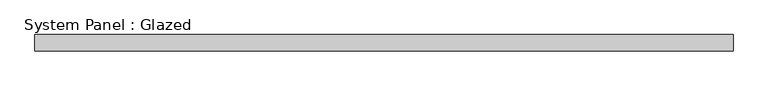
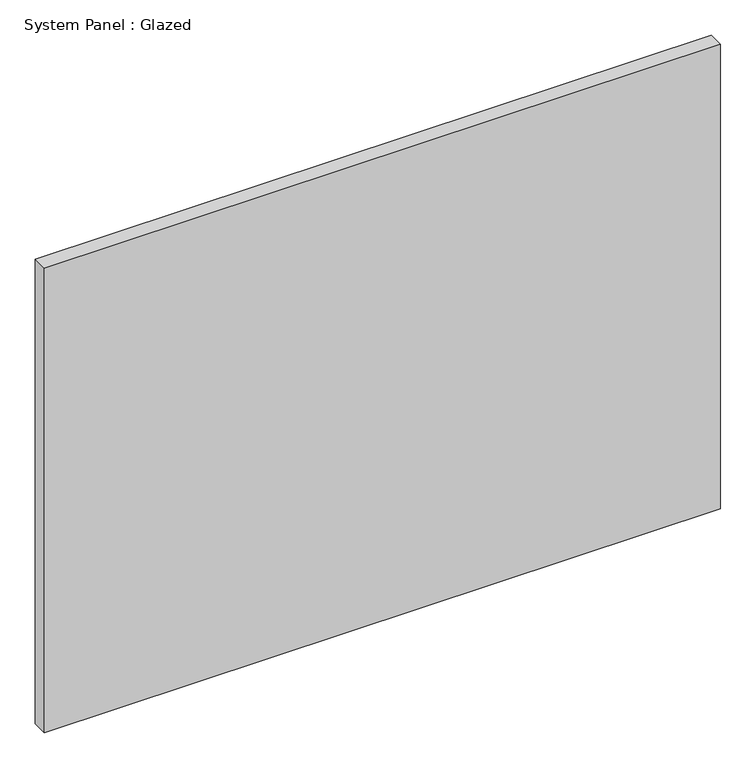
"""IFC4 building model written with IfcOpenShell, lengths in millimetres: plate geometry, System Panel : Glazed."""

from ifc_helpers import new_model, si_unit, origin, origin_with_axes, place, context, project, spatial, polyline, outline, extrude, source, transform, mapped, element, save


def system_panel_glazed_3e889d5c(model_context):
    return source(origin(), model_context, "Body", "SweptSolid", [
        extrude(outline(polyline([(550.2296005, 19.05), (-550.2296005, 19.05), (-550.2296005, 44.45), (550.2296005, 44.45), (550.2296005, 19.05)])), origin_with_axes(), (0.0, 0.0, 1.0), 798.5967633),
    ])


if __name__ == "__main__":
    model = new_model("IFC4")
    model_context = context("Model", 3, world=origin())
    ifc_project = project(units=[si_unit("LENGTHUNIT", "METRE", prefix="MILLI")], contexts=[model_context])
    site = spatial("IfcSite", under=ifc_project)
    building = spatial("IfcBuilding", under=site)
    placement = place(None, origin())
    system_panel_glazed_shape = system_panel_glazed_3e889d5c(model_context)
    element("IfcPlate", 1, ObjectType="System Panel : Glazed", at=placement, inside=building, context=model_context, shape_type="MappedRepresentation", body=[
        mapped(system_panel_glazed_shape, transform((0.0, 0.0, 0.0), x_axis=(1.0, 0.0, 0.0), y_axis=(0.0, 1.0, 0.0), z_axis=(0.0, 0.0, 1.0))),
    ])
    save(model, "model.ifc")
